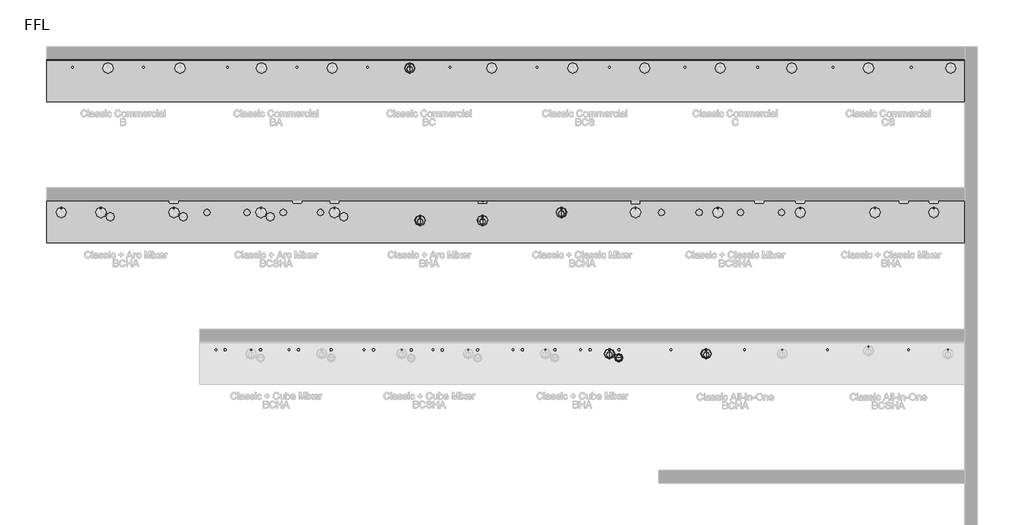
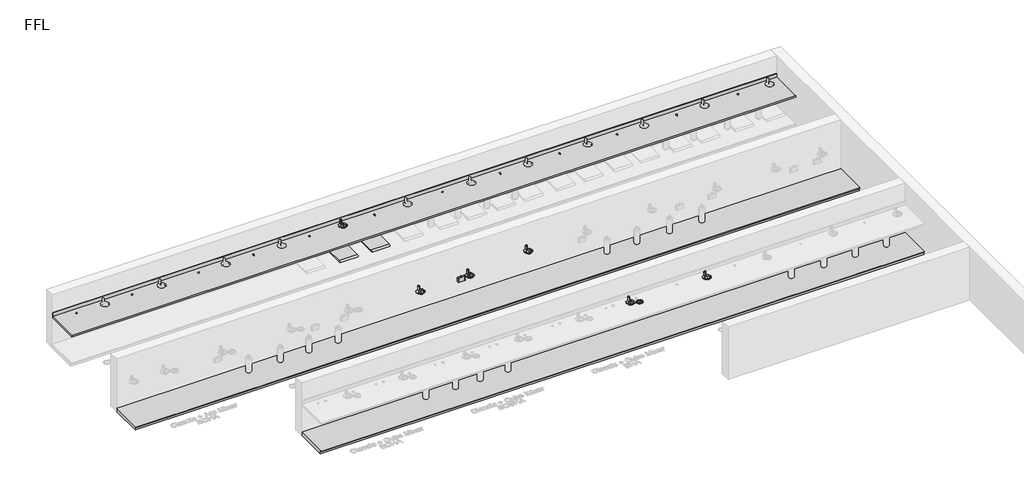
# One storey, part 3 of 13: 13 flow terminals, 3 furniture elements.
"""IFC4 building model written with IfcOpenShell, lengths in millimetres."""

from ifc_helpers import new_model, si_unit, frame, origin, place, context, project, spatial, polyline, circle_curve, transform, mapped, element, save
from ifc_brep_helpers import plane_surface, revolved_surface, advanced_brep
from components import flow_terminal_1fd3c137, bcs_and_bc_6de74493, bright_chrome_07e2d693, brushed_chrome_743c02cf, generic_plinth_900mm_a81356e5, generic_plinth_900mm_fa4a643e

model = new_model("IFC4")

# Units and contexts
model_context = context("Model", 3, world=origin())
ifc_project = project(units=[si_unit("LENGTHUNIT", "METRE", prefix="MILLI")], contexts=[model_context])

# Site, building, storey
site = spatial("IfcSite", under=ifc_project)
building = spatial("IfcBuilding", under=site)
storey = spatial("IfcBuildingStorey", under=building, Name="FFL", Elevation=0.0)

# Flow terminals
placement = place(None, origin())
flow_terminal_shape = flow_terminal_1fd3c137(model_context)
element("IfcFlowTerminal", 1, ObjectType="z_PlumFixt_Zenith_Booster : Booster", at=placement, inside=storey, context=model_context, shape_type="MappedRepresentation", body=[
    mapped(flow_terminal_shape, transform((4983.2647071, 1901.1893304, 498.0), x_axis=(1.0, 0.0, 0.0), y_axis=(0.0, 1.0, 0.0), z_axis=(0.0, 0.0, 1.0))),
])
element("IfcFlowTerminal", 2, ObjectType="z_PlumFixt_Zenith_Booster : Booster", at=placement, inside=storey, context=model_context, shape_type="MappedRepresentation", body=[
    mapped(flow_terminal_shape, transform((4373.2647071, 1901.1893304, 498.0), x_axis=(1.0, 0.0, 0.0), y_axis=(0.0, 1.0, 0.0), z_axis=(0.0, 0.0, 1.0))),
])
element("IfcFlowTerminal", 3, ObjectType="z_PlumFixt_Zenith_Booster : Booster", at=placement, inside=storey, context=model_context, shape_type="MappedRepresentation", body=[
    mapped(flow_terminal_shape, transform((7853.2647071, 1885.3893304, 498.0), x_axis=(1.0, 0.0, 0.0), y_axis=(0.0, 1.0, 0.0), z_axis=(0.0, 0.0, 1.0))),
])
element("IfcFlowTerminal", 4, ObjectType="z_PlumFixt_Zenith_Booster : Booster", at=placement, inside=storey, context=model_context, shape_type="MappedRepresentation", body=[
    mapped(flow_terminal_shape, transform((2289.2647071, 4901.1893304, 498.0), x_axis=(1.0, 0.0, 0.0), y_axis=(0.0, 1.0, 0.0), z_axis=(0.0, 0.0, 1.0))),
])
bcs_and_bc_shape = bcs_and_bc_6de74493(model_context)
element("IfcFlowTerminal", 5, ObjectType="z_PlumFixt_Zenith_Vent Tray : BCS and BC", at=placement, inside=storey, context=model_context, shape_type="MappedRepresentation", body=[
    mapped(bcs_and_bc_shape, transform((739.2647071, 7706.6893304, 100.0), x_axis=(1.0, 0.0, 0.0), y_axis=(0.0, 1.0, 0.0), z_axis=(0.0, 0.0, 1.0))),
])
element("IfcFlowTerminal", 6, ObjectType="z_PlumFixt_Zenith_Vent Tray : BCS and BC", at=placement, inside=storey, context=model_context, shape_type="MappedRepresentation", body=[
    mapped(bcs_and_bc_shape, transform((1599.2647071, 7706.6893304, 100.0), x_axis=(1.0, 0.0, 0.0), y_axis=(0.0, 1.0, 0.0), z_axis=(0.0, 0.0, 1.0))),
])
bright_chrome_shape = bright_chrome_07e2d693(model_context)
element("IfcFlowTerminal", 7, ObjectType="z_PlumFixt_Zenith_Font and Tap Riser : Bright Chrome", at=placement, inside=storey, context=model_context, shape_type="MappedRepresentation", body=[
    mapped(bright_chrome_shape, transform((740.2647071, 7645.4393304, 900.0), x_axis=(1.0, 0.0, 0.0), y_axis=(0.0, 1.0, 0.0), z_axis=(0.0, 0.0, 1.0))),
])
element("IfcFlowTerminal", 8, ObjectType="z_PlumFixt_Zenith_Font and Tap Riser : Bright Chrome", at=placement, inside=storey, context=model_context, shape_type="MappedRepresentation", body=[
    mapped(bright_chrome_shape, transform((3963.2647071, 4578.9393304, 900.0), x_axis=(1.0, 0.0, 0.0), y_axis=(0.0, 1.0, 0.0), z_axis=(0.0, 0.0, 1.0))),
])
element("IfcFlowTerminal", 9, ObjectType="z_PlumFixt_Zenith_Font and Tap Riser : Bright Chrome", at=placement, inside=storey, context=model_context, shape_type="MappedRepresentation", body=[
    mapped(bright_chrome_shape, transform((963.2647071, 4409.028067, 900.0), x_axis=(1.0, 0.0, 0.0), y_axis=(0.0, 1.0, 0.0), z_axis=(0.0, 0.0, 1.0))),
])
element("IfcFlowTerminal", 10, ObjectType="z_PlumFixt_Zenith_Font and Tap Riser : Bright Chrome", at=placement, inside=storey, context=model_context, shape_type="MappedRepresentation", body=[
    mapped(bright_chrome_shape, transform((7036.2647071, 1578.9393304, 900.0), x_axis=(1.0, 0.0, 0.0), y_axis=(0.0, 1.0, 0.0), z_axis=(0.0, 0.0, 1.0))),
])
element("IfcFlowTerminal", 11, ObjectType="z_PlumFixt_Zenith_Font and Tap Riser : Bright Chrome", at=placement, inside=storey, context=model_context, shape_type="MappedRepresentation", body=[
    mapped(bright_chrome_shape, transform((2289.2647071, 4409.028067, 900.0), x_axis=(1.0, 0.0, 0.0), y_axis=(0.0, 1.0, 0.0), z_axis=(0.0, 0.0, 1.0))),
])
element("IfcFlowTerminal", 12, ObjectType="z_PlumFixt_Zenith_Font and Tap Riser : Bright Chrome", at=placement, inside=storey, context=model_context, shape_type="MappedRepresentation", body=[
    mapped(bright_chrome_shape, transform((4983.2647071, 1578.9393304, 900.0), x_axis=(1.0, 0.0, 0.0), y_axis=(0.0, 1.0, 0.0), z_axis=(0.0, 0.0, 1.0))),
])
brushed_chrome_shape = brushed_chrome_743c02cf(model_context)
element("IfcFlowTerminal", 13, ObjectType="z_PlumFixt_Zenith_Font : Matte Black", at=placement, inside=storey, context=model_context, shape_type="MappedRepresentation", body=[
    mapped(brushed_chrome_shape, transform((5183.2647071, 1492.1893304, 900.0), x_axis=(1.0, 0.0, 0.0), y_axis=(0.0, 1.0, 0.0), z_axis=(0.0, 0.0, 1.0))),
])

# Furniture
element("IfcFurniture", 14, ObjectType="Counter Top : 900mm Depth", at=placement, inside=storey, context=model_context, shape_type="AdvancedBrep", body=[
    advanced_brep(
    [(-6969.7352929, 6948.2393304, 900.0), (12530.2647071, 6948.2393304, 900.0), (12530.2647071, 7829.1893304, 900.0), (-6969.7352929, 7829.1893304, 900.0), (4186.7647071, 7745.6893304, 900.0), (4221.7647071, 7745.6893304, 900.0), (4136.0647071, 7639.0712903, 900.0), (4272.4647071, 7639.0712903, 900.0), (3426.7647071, 7679.1893304, 900.0), (3461.7647071, 7679.1893304, 900.0), (4963.7647071, 7679.1893304, 900.0), (4998.7647071, 7679.1893304, 900.0), (5714.7647071, 7745.6893304, 900.0), (5749.7647071, 7745.6893304, 900.0), (5664.0647071, 7639.0712903, 900.0), (5800.4647071, 7639.0712903, 900.0), (-167.2352929, 7679.1893304, 900.0), (-132.2352929, 7679.1893304, 900.0), (723.7647071, 7745.6893304, 900.0), (758.7647071, 7745.6893304, 900.0), (673.0647071, 7639.0712903, 900.0), (809.4647071, 7639.0712903, 900.0), (1582.7647071, 7679.1893304, 900.0), (1617.7647071, 7679.1893304, 900.0), (2468.7647071, 7745.6893304, 900.0), (2503.7647071, 7745.6893304, 900.0), (2418.0647071, 7639.0712903, 900.0), (2554.4647071, 7639.0712903, 900.0), (-3143.2352929, 7679.1893304, 900.0), (-3108.2352929, 7679.1893304, 900.0), (-2422.2352929, 7745.6893304, 900.0), (-2387.2352929, 7745.6893304, 900.0), (-2472.9352929, 7639.0712903, 900.0), (-2336.5352929, 7639.0712903, 900.0), (-1673.2352929, 7679.1893304, 900.0), (-1638.2352929, 7679.1893304, 900.0), (-922.2352929, 7745.6893304, 900.0), (-887.2352929, 7745.6893304, 900.0), (-972.9352929, 7639.0712903, 900.0), (-836.5352929, 7639.0712903, 900.0), (-6433.2352929, 7679.1893304, 900.0), (-6398.2352929, 7679.1893304, 900.0), (-5682.2352929, 7745.6893304, 900.0), (-5647.2352929, 7745.6893304, 900.0), (-5732.9352929, 7639.0712903, 900.0), (-5596.5352929, 7639.0712903, 900.0), (-4933.2352929, 7679.1893304, 900.0), (-4898.2352929, 7679.1893304, 900.0), (-4152.2352929, 7745.6893304, 900.0), (-4117.2352929, 7745.6893304, 900.0), (-4202.9352929, 7639.0712903, 900.0), (-4066.5352929, 7639.0712903, 900.0), (9716.7647071, 7679.1893304, 900.0), (9751.7647071, 7679.1893304, 900.0), (10467.7647071, 7745.6893304, 900.0), (10502.7647071, 7745.6893304, 900.0), (10417.0647071, 7639.0712903, 900.0), (10553.4647071, 7639.0712903, 900.0), (11376.7647071, 7679.1893304, 900.0), (11411.7647071, 7679.1893304, 900.0), (12217.7647071, 7745.6893304, 900.0), (12252.7647071, 7745.6893304, 900.0), (12167.0647071, 7639.0712903, 900.0), (12303.4647071, 7639.0712903, 900.0), (6566.7647071, 7679.1893304, 900.0), (6601.7647071, 7679.1893304, 900.0), (7317.7647071, 7745.6893304, 900.0), (7352.7647071, 7745.6893304, 900.0), (7267.0647071, 7639.0712903, 900.0), (7403.4647071, 7639.0712903, 900.0), (8116.7647071, 7679.1893304, 900.0), (8151.7647071, 7679.1893304, 900.0), (8837.7647071, 7745.6893304, 900.0), (8872.7647071, 7745.6893304, 900.0), (8787.0647071, 7639.0712903, 900.0), (8923.4647071, 7639.0712903, 900.0), (12530.2647071, 7848.2393304, 860.0), (12530.2647071, 6948.2393304, 860.0), (-6969.7352929, 6948.2393304, 860.0), (-6969.7352929, 7848.2393304, 860.0), (4221.7647071, 7745.6893304, 860.0), (4186.7647071, 7745.6893304, 860.0), (4272.4647071, 7639.0712903, 860.0), (4136.0647071, 7639.0712903, 860.0), (3461.7647071, 7679.1893304, 860.0), (3426.7647071, 7679.1893304, 860.0), (4998.7647071, 7679.1893304, 860.0), (4963.7647071, 7679.1893304, 860.0), (5749.7647071, 7745.6893304, 860.0), (5714.7647071, 7745.6893304, 860.0), (5800.4647071, 7639.0712903, 860.0), (5664.0647071, 7639.0712903, 860.0), (-132.2352929, 7679.1893304, 860.0), (-167.2352929, 7679.1893304, 860.0), (758.7647071, 7745.6893304, 860.0), (723.7647071, 7745.6893304, 860.0), (809.4647071, 7639.0712903, 860.0), (673.0647071, 7639.0712903, 860.0), (1617.7647071, 7679.1893304, 860.0), (1582.7647071, 7679.1893304, 860.0), (2503.7647071, 7745.6893304, 860.0), (2468.7647071, 7745.6893304, 860.0), (2554.4647071, 7639.0712903, 860.0), (2418.0647071, 7639.0712903, 860.0), (-3108.2352929, 7679.1893304, 860.0), (-3143.2352929, 7679.1893304, 860.0), (-2387.2352929, 7745.6893304, 860.0), (-2422.2352929, 7745.6893304, 860.0), (-2336.5352929, 7639.0712903, 860.0), (-2472.9352929, 7639.0712903, 860.0), (-1638.2352929, 7679.1893304, 860.0), (-1673.2352929, 7679.1893304, 860.0), (-887.2352929, 7745.6893304, 860.0), (-922.2352929, 7745.6893304, 860.0), (-836.5352929, 7639.0712903, 860.0), (-972.9352929, 7639.0712903, 860.0), (-6398.2352929, 7679.1893304, 860.0), (-6433.2352929, 7679.1893304, 860.0), (-5647.2352929, 7745.6893304, 860.0), (-5682.2352929, 7745.6893304, 860.0), (-5596.5352929, 7639.0712903, 860.0), (-5732.9352929, 7639.0712903, 860.0), (-4898.2352929, 7679.1893304, 860.0), (-4933.2352929, 7679.1893304, 860.0), (-4117.2352929, 7745.6893304, 860.0), (-4152.2352929, 7745.6893304, 860.0), (-4066.5352929, 7639.0712903, 860.0), (-4202.9352929, 7639.0712903, 860.0), (9751.7647071, 7679.1893304, 860.0), (9716.7647071, 7679.1893304, 860.0), (10502.7647071, 7745.6893304, 860.0), (10467.7647071, 7745.6893304, 860.0), (10553.4647071, 7639.0712903, 860.0), (10417.0647071, 7639.0712903, 860.0), (11411.7647071, 7679.1893304, 860.0), (11376.7647071, 7679.1893304, 860.0), (12252.7647071, 7745.6893304, 860.0), (12217.7647071, 7745.6893304, 860.0), (12303.4647071, 7639.0712903, 860.0), (12167.0647071, 7639.0712903, 860.0), (6601.7647071, 7679.1893304, 860.0), (6566.7647071, 7679.1893304, 860.0), (7352.7647071, 7745.6893304, 860.0), (7317.7647071, 7745.6893304, 860.0), (7403.4647071, 7639.0712903, 860.0), (7267.0647071, 7639.0712903, 860.0), (8151.7647071, 7679.1893304, 860.0), (8116.7647071, 7679.1893304, 860.0), (8872.7647071, 7745.6893304, 860.0), (8837.7647071, 7745.6893304, 860.0), (8923.4647071, 7639.0712903, 860.0), (8787.0647071, 7639.0712903, 860.0), (-6969.7352929, 7848.2393304, 1001.6), (12530.2647071, 7848.2393304, 1001.6), (-6969.7352929, 7829.1893304, 1001.6), (12530.2647071, 7829.1893304, 1001.6)],
    [
        (0, 1),
        (1, 2),
        (2, 3),
        (3, 0),
        (4, 5, circle_curve(frame((4204.2647071, 7745.6893304, 900.0), z_axis=(0.0, 0.0, -1.0), x_axis=(-1.0, 0.0, 0.0)), 17.5)),
        (5, 4, circle_curve(frame((4204.2647071, 7745.6893304, 900.0), z_axis=(0.0, 0.0, -1.0), x_axis=(-1.0, 0.0, 0.0)), 17.5)),
        (6, 7, circle_curve(frame((4204.2647071, 7639.0712903, 900.0), z_axis=(0.0, 0.0, -1.0), x_axis=(-1.0, 0.0, 0.0)), 68.2)),
        (7, 6, circle_curve(frame((4204.2647071, 7639.0712903, 900.0), z_axis=(0.0, 0.0, -1.0), x_axis=(-1.0, 0.0, 0.0)), 68.2)),
        (8, 9, circle_curve(frame((3444.2647071, 7679.1893304, 900.0), z_axis=(0.0, 0.0, -1.0), x_axis=(-1.0, 0.0, 0.0)), 17.5)),
        (9, 8, circle_curve(frame((3444.2647071, 7679.1893304, 900.0), z_axis=(0.0, 0.0, -1.0), x_axis=(-1.0, 0.0, 0.0)), 17.5)),
        (10, 11, circle_curve(frame((4981.2647071, 7679.1893304, 900.0), z_axis=(0.0, 0.0, -1.0), x_axis=(-1.0, 0.0, 0.0)), 17.5)),
        (11, 10, circle_curve(frame((4981.2647071, 7679.1893304, 900.0), z_axis=(0.0, 0.0, -1.0), x_axis=(-1.0, 0.0, 0.0)), 17.5)),
        (12, 13, circle_curve(frame((5732.2647071, 7745.6893304, 900.0), z_axis=(0.0, 0.0, -1.0), x_axis=(-1.0, 0.0, 0.0)), 17.5)),
        (13, 12, circle_curve(frame((5732.2647071, 7745.6893304, 900.0), z_axis=(0.0, 0.0, -1.0), x_axis=(-1.0, 0.0, 0.0)), 17.5)),
        (14, 15, circle_curve(frame((5732.2647071, 7639.0712903, 900.0), z_axis=(0.0, 0.0, -1.0), x_axis=(-1.0, 0.0, 0.0)), 68.2)),
        (15, 14, circle_curve(frame((5732.2647071, 7639.0712903, 900.0), z_axis=(0.0, 0.0, -1.0), x_axis=(-1.0, 0.0, 0.0)), 68.2)),
        (16, 17, circle_curve(frame((-149.7352929, 7679.1893304, 900.0), z_axis=(0.0, 0.0, -1.0), x_axis=(-1.0, 0.0, 0.0)), 17.5)),
        (17, 16, circle_curve(frame((-149.7352929, 7679.1893304, 900.0), z_axis=(0.0, 0.0, -1.0), x_axis=(-1.0, 0.0, 0.0)), 17.5)),
        (18, 19, circle_curve(frame((741.2647071, 7745.6893304, 900.0), z_axis=(0.0, 0.0, -1.0), x_axis=(-1.0, 0.0, 0.0)), 17.5)),
        (19, 18, circle_curve(frame((741.2647071, 7745.6893304, 900.0), z_axis=(0.0, 0.0, -1.0), x_axis=(-1.0, 0.0, 0.0)), 17.5)),
        (20, 21, circle_curve(frame((741.2647071, 7639.0712903, 900.0), z_axis=(0.0, 0.0, -1.0), x_axis=(-1.0, 0.0, 0.0)), 68.2)),
        (21, 20, circle_curve(frame((741.2647071, 7639.0712903, 900.0), z_axis=(0.0, 0.0, -1.0), x_axis=(-1.0, 0.0, 0.0)), 68.2)),
        (22, 23, circle_curve(frame((1600.2647071, 7679.1893304, 900.0), z_axis=(0.0, 0.0, -1.0), x_axis=(-1.0, 0.0, 0.0)), 17.5)),
        (23, 22, circle_curve(frame((1600.2647071, 7679.1893304, 900.0), z_axis=(0.0, 0.0, -1.0), x_axis=(-1.0, 0.0, 0.0)), 17.5)),
        (24, 25, circle_curve(frame((2486.2647071, 7745.6893304, 900.0), z_axis=(0.0, 0.0, -1.0), x_axis=(-1.0, 0.0, 0.0)), 17.5)),
        (25, 24, circle_curve(frame((2486.2647071, 7745.6893304, 900.0), z_axis=(0.0, 0.0, -1.0), x_axis=(-1.0, 0.0, 0.0)), 17.5)),
        (26, 27, circle_curve(frame((2486.2647071, 7639.0712903, 900.0), z_axis=(0.0, 0.0, -1.0), x_axis=(-1.0, 0.0, 0.0)), 68.2)),
        (27, 26, circle_curve(frame((2486.2647071, 7639.0712903, 900.0), z_axis=(0.0, 0.0, -1.0), x_axis=(-1.0, 0.0, 0.0)), 68.2)),
        (28, 29, circle_curve(frame((-3125.7352929, 7679.1893304, 900.0), z_axis=(0.0, 0.0, -1.0), x_axis=(-1.0, 0.0, 0.0)), 17.5)),
        (29, 28, circle_curve(frame((-3125.7352929, 7679.1893304, 900.0), z_axis=(0.0, 0.0, -1.0), x_axis=(-1.0, 0.0, 0.0)), 17.5)),
        (30, 31, circle_curve(frame((-2404.7352929, 7745.6893304, 900.0), z_axis=(0.0, 0.0, -1.0), x_axis=(-1.0, 0.0, 0.0)), 17.5)),
        (31, 30, circle_curve(frame((-2404.7352929, 7745.6893304, 900.0), z_axis=(0.0, 0.0, -1.0), x_axis=(-1.0, 0.0, 0.0)), 17.5)),
        (32, 33, circle_curve(frame((-2404.7352929, 7639.0712903, 900.0), z_axis=(0.0, 0.0, -1.0), x_axis=(-1.0, 0.0, 0.0)), 68.2)),
        (33, 32, circle_curve(frame((-2404.7352929, 7639.0712903, 900.0), z_axis=(0.0, 0.0, -1.0), x_axis=(-1.0, 0.0, 0.0)), 68.2)),
        (34, 35, circle_curve(frame((-1655.7352929, 7679.1893304, 900.0), z_axis=(0.0, 0.0, -1.0), x_axis=(-1.0, 0.0, 0.0)), 17.5)),
        (35, 34, circle_curve(frame((-1655.7352929, 7679.1893304, 900.0), z_axis=(0.0, 0.0, -1.0), x_axis=(-1.0, 0.0, 0.0)), 17.5)),
        (36, 37, circle_curve(frame((-904.7352929, 7745.6893304, 900.0), z_axis=(0.0, 0.0, -1.0), x_axis=(-1.0, 0.0, 0.0)), 17.5)),
        (37, 36, circle_curve(frame((-904.7352929, 7745.6893304, 900.0), z_axis=(0.0, 0.0, -1.0), x_axis=(-1.0, 0.0, 0.0)), 17.5)),
        (38, 39, circle_curve(frame((-904.7352929, 7639.0712903, 900.0), z_axis=(0.0, 0.0, -1.0), x_axis=(-1.0, 0.0, 0.0)), 68.2)),
        (39, 38, circle_curve(frame((-904.7352929, 7639.0712903, 900.0), z_axis=(0.0, 0.0, -1.0), x_axis=(-1.0, 0.0, 0.0)), 68.2)),
        (40, 41, circle_curve(frame((-6415.7352929, 7679.1893304, 900.0), z_axis=(0.0, 0.0, -1.0), x_axis=(-1.0, 0.0, 0.0)), 17.5)),
        (41, 40, circle_curve(frame((-6415.7352929, 7679.1893304, 900.0), z_axis=(0.0, 0.0, -1.0), x_axis=(-1.0, 0.0, 0.0)), 17.5)),
        (42, 43, circle_curve(frame((-5664.7352929, 7745.6893304, 900.0), z_axis=(0.0, 0.0, -1.0), x_axis=(-1.0, 0.0, 0.0)), 17.5)),
        (43, 42, circle_curve(frame((-5664.7352929, 7745.6893304, 900.0), z_axis=(0.0, 0.0, -1.0), x_axis=(-1.0, 0.0, 0.0)), 17.5)),
        (44, 45, circle_curve(frame((-5664.7352929, 7639.0712903, 900.0), z_axis=(0.0, 0.0, -1.0), x_axis=(-1.0, 0.0, 0.0)), 68.2)),
        (45, 44, circle_curve(frame((-5664.7352929, 7639.0712903, 900.0), z_axis=(0.0, 0.0, -1.0), x_axis=(-1.0, 0.0, 0.0)), 68.2)),
        (46, 47, circle_curve(frame((-4915.7352929, 7679.1893304, 900.0), z_axis=(0.0, 0.0, -1.0), x_axis=(-1.0, 0.0, 0.0)), 17.5)),
        (47, 46, circle_curve(frame((-4915.7352929, 7679.1893304, 900.0), z_axis=(0.0, 0.0, -1.0), x_axis=(-1.0, 0.0, 0.0)), 17.5)),
        (48, 49, circle_curve(frame((-4134.7352929, 7745.6893304, 900.0), z_axis=(0.0, 0.0, -1.0), x_axis=(-1.0, 0.0, 0.0)), 17.5)),
        (49, 48, circle_curve(frame((-4134.7352929, 7745.6893304, 900.0), z_axis=(0.0, 0.0, -1.0), x_axis=(-1.0, 0.0, 0.0)), 17.5)),
        (50, 51, circle_curve(frame((-4134.7352929, 7639.0712903, 900.0), z_axis=(0.0, 0.0, -1.0), x_axis=(-1.0, 0.0, 0.0)), 68.2)),
        (51, 50, circle_curve(frame((-4134.7352929, 7639.0712903, 900.0), z_axis=(0.0, 0.0, -1.0), x_axis=(-1.0, 0.0, 0.0)), 68.2)),
        (52, 53, circle_curve(frame((9734.2647071, 7679.1893304, 900.0), z_axis=(0.0, 0.0, -1.0), x_axis=(-1.0, 0.0, 0.0)), 17.5)),
        (53, 52, circle_curve(frame((9734.2647071, 7679.1893304, 900.0), z_axis=(0.0, 0.0, -1.0), x_axis=(-1.0, 0.0, 0.0)), 17.5)),
        (54, 55, circle_curve(frame((10485.2647071, 7745.6893304, 900.0), z_axis=(0.0, 0.0, -1.0), x_axis=(-1.0, 0.0, 0.0)), 17.5)),
        (55, 54, circle_curve(frame((10485.2647071, 7745.6893304, 900.0), z_axis=(0.0, 0.0, -1.0), x_axis=(-1.0, 0.0, 0.0)), 17.5)),
        (56, 57, circle_curve(frame((10485.2647071, 7639.0712903, 900.0), z_axis=(0.0, 0.0, -1.0), x_axis=(-1.0, 0.0, 0.0)), 68.2)),
        (57, 56, circle_curve(frame((10485.2647071, 7639.0712903, 900.0), z_axis=(0.0, 0.0, -1.0), x_axis=(-1.0, 0.0, 0.0)), 68.2)),
        (58, 59, circle_curve(frame((11394.2647071, 7679.1893304, 900.0), z_axis=(0.0, 0.0, -1.0), x_axis=(-1.0, 0.0, 0.0)), 17.5)),
        (59, 58, circle_curve(frame((11394.2647071, 7679.1893304, 900.0), z_axis=(0.0, 0.0, -1.0), x_axis=(-1.0, 0.0, 0.0)), 17.5)),
        (60, 61, circle_curve(frame((12235.2647071, 7745.6893304, 900.0), z_axis=(0.0, 0.0, -1.0), x_axis=(-1.0, 0.0, 0.0)), 17.5)),
        (61, 60, circle_curve(frame((12235.2647071, 7745.6893304, 900.0), z_axis=(0.0, 0.0, -1.0), x_axis=(-1.0, 0.0, 0.0)), 17.5)),
        (62, 63, circle_curve(frame((12235.2647071, 7639.0712903, 900.0), z_axis=(0.0, 0.0, -1.0), x_axis=(-1.0, 0.0, 0.0)), 68.2)),
        (63, 62, circle_curve(frame((12235.2647071, 7639.0712903, 900.0), z_axis=(0.0, 0.0, -1.0), x_axis=(-1.0, 0.0, 0.0)), 68.2)),
        (64, 65, circle_curve(frame((6584.2647071, 7679.1893304, 900.0), z_axis=(0.0, 0.0, -1.0), x_axis=(-1.0, 0.0, 0.0)), 17.5)),
        (65, 64, circle_curve(frame((6584.2647071, 7679.1893304, 900.0), z_axis=(0.0, 0.0, -1.0), x_axis=(-1.0, 0.0, 0.0)), 17.5)),
        (66, 67, circle_curve(frame((7335.2647071, 7745.6893304, 900.0), z_axis=(0.0, 0.0, -1.0), x_axis=(-1.0, 0.0, 0.0)), 17.5)),
        (67, 66, circle_curve(frame((7335.2647071, 7745.6893304, 900.0), z_axis=(0.0, 0.0, -1.0), x_axis=(-1.0, 0.0, 0.0)), 17.5)),
        (68, 69, circle_curve(frame((7335.2647071, 7639.0712903, 900.0), z_axis=(0.0, 0.0, -1.0), x_axis=(-1.0, 0.0, 0.0)), 68.2)),
        (69, 68, circle_curve(frame((7335.2647071, 7639.0712903, 900.0), z_axis=(0.0, 0.0, -1.0), x_axis=(-1.0, 0.0, 0.0)), 68.2)),
        (70, 71, circle_curve(frame((8134.2647071, 7679.1893304, 900.0), z_axis=(0.0, 0.0, -1.0), x_axis=(-1.0, 0.0, 0.0)), 17.5)),
        (71, 70, circle_curve(frame((8134.2647071, 7679.1893304, 900.0), z_axis=(0.0, 0.0, -1.0), x_axis=(-1.0, 0.0, 0.0)), 17.5)),
        (72, 73, circle_curve(frame((8855.2647071, 7745.6893304, 900.0), z_axis=(0.0, 0.0, -1.0), x_axis=(-1.0, 0.0, 0.0)), 17.5)),
        (73, 72, circle_curve(frame((8855.2647071, 7745.6893304, 900.0), z_axis=(0.0, 0.0, -1.0), x_axis=(-1.0, 0.0, 0.0)), 17.5)),
        (74, 75, circle_curve(frame((8855.2647071, 7639.0712903, 900.0), z_axis=(0.0, 0.0, -1.0), x_axis=(-1.0, 0.0, 0.0)), 68.2)),
        (75, 74, circle_curve(frame((8855.2647071, 7639.0712903, 900.0), z_axis=(0.0, 0.0, -1.0), x_axis=(-1.0, 0.0, 0.0)), 68.2)),
        (76, 77),
        (77, 78),
        (78, 79),
        (79, 76),
        (80, 81, circle_curve(frame((4204.2647071, 7745.6893304, 860.0), z_axis=(0.0, 0.0, 1.0), x_axis=(-1.0, 0.0, 0.0)), 17.5)),
        (81, 80, circle_curve(frame((4204.2647071, 7745.6893304, 860.0), z_axis=(0.0, 0.0, 1.0), x_axis=(-1.0, 0.0, 0.0)), 17.5)),
        (82, 83, circle_curve(frame((4204.2647071, 7639.0712903, 860.0), z_axis=(0.0, 0.0, 1.0), x_axis=(-1.0, 0.0, 0.0)), 68.2)),
        (83, 82, circle_curve(frame((4204.2647071, 7639.0712903, 860.0), z_axis=(0.0, 0.0, 1.0), x_axis=(-1.0, 0.0, 0.0)), 68.2)),
        (84, 85, circle_curve(frame((3444.2647071, 7679.1893304, 860.0), z_axis=(0.0, 0.0, 1.0), x_axis=(-1.0, 0.0, 0.0)), 17.5)),
        (85, 84, circle_curve(frame((3444.2647071, 7679.1893304, 860.0), z_axis=(0.0, 0.0, 1.0), x_axis=(-1.0, 0.0, 0.0)), 17.5)),
        (86, 87, circle_curve(frame((4981.2647071, 7679.1893304, 860.0), z_axis=(0.0, 0.0, 1.0), x_axis=(-1.0, 0.0, 0.0)), 17.5)),
        (87, 86, circle_curve(frame((4981.2647071, 7679.1893304, 860.0), z_axis=(0.0, 0.0, 1.0), x_axis=(-1.0, 0.0, 0.0)), 17.5)),
        (88, 89, circle_curve(frame((5732.2647071, 7745.6893304, 860.0), z_axis=(0.0, 0.0, 1.0), x_axis=(-1.0, 0.0, 0.0)), 17.5)),
        (89, 88, circle_curve(frame((5732.2647071, 7745.6893304, 860.0), z_axis=(0.0, 0.0, 1.0), x_axis=(-1.0, 0.0, 0.0)), 17.5)),
        (90, 91, circle_curve(frame((5732.2647071, 7639.0712903, 860.0), z_axis=(0.0, 0.0, 1.0), x_axis=(-1.0, 0.0, 0.0)), 68.2)),
        (91, 90, circle_curve(frame((5732.2647071, 7639.0712903, 860.0), z_axis=(0.0, 0.0, 1.0), x_axis=(-1.0, 0.0, 0.0)), 68.2)),
        (92, 93, circle_curve(frame((-149.7352929, 7679.1893304, 860.0), z_axis=(0.0, 0.0, 1.0), x_axis=(-1.0, 0.0, 0.0)), 17.5)),
        (93, 92, circle_curve(frame((-149.7352929, 7679.1893304, 860.0), z_axis=(0.0, 0.0, 1.0), x_axis=(-1.0, 0.0, 0.0)), 17.5)),
        (94, 95, circle_curve(frame((741.2647071, 7745.6893304, 860.0), z_axis=(0.0, 0.0, 1.0), x_axis=(-1.0, 0.0, 0.0)), 17.5)),
        (95, 94, circle_curve(frame((741.2647071, 7745.6893304, 860.0), z_axis=(0.0, 0.0, 1.0), x_axis=(-1.0, 0.0, 0.0)), 17.5)),
        (96, 97, circle_curve(frame((741.2647071, 7639.0712903, 860.0), z_axis=(0.0, 0.0, 1.0), x_axis=(-1.0, 0.0, 0.0)), 68.2)),
        (97, 96, circle_curve(frame((741.2647071, 7639.0712903, 860.0), z_axis=(0.0, 0.0, 1.0), x_axis=(-1.0, 0.0, 0.0)), 68.2)),
        (98, 99, circle_curve(frame((1600.2647071, 7679.1893304, 860.0), z_axis=(0.0, 0.0, 1.0), x_axis=(-1.0, 0.0, 0.0)), 17.5)),
        (99, 98, circle_curve(frame((1600.2647071, 7679.1893304, 860.0), z_axis=(0.0, 0.0, 1.0), x_axis=(-1.0, 0.0, 0.0)), 17.5)),
        (100, 101, circle_curve(frame((2486.2647071, 7745.6893304, 860.0), z_axis=(0.0, 0.0, 1.0), x_axis=(-1.0, 0.0, 0.0)), 17.5)),
        (101, 100, circle_curve(frame((2486.2647071, 7745.6893304, 860.0), z_axis=(0.0, 0.0, 1.0), x_axis=(-1.0, 0.0, 0.0)), 17.5)),
        (102, 103, circle_curve(frame((2486.2647071, 7639.0712903, 860.0), z_axis=(0.0, 0.0, 1.0), x_axis=(-1.0, 0.0, 0.0)), 68.2)),
        (103, 102, circle_curve(frame((2486.2647071, 7639.0712903, 860.0), z_axis=(0.0, 0.0, 1.0), x_axis=(-1.0, 0.0, 0.0)), 68.2)),
        (104, 105, circle_curve(frame((-3125.7352929, 7679.1893304, 860.0), z_axis=(0.0, 0.0, 1.0), x_axis=(-1.0, 0.0, 0.0)), 17.5)),
        (105, 104, circle_curve(frame((-3125.7352929, 7679.1893304, 860.0), z_axis=(0.0, 0.0, 1.0), x_axis=(-1.0, 0.0, 0.0)), 17.5)),
        (106, 107, circle_curve(frame((-2404.7352929, 7745.6893304, 860.0), z_axis=(0.0, 0.0, 1.0), x_axis=(-1.0, 0.0, 0.0)), 17.5)),
        (107, 106, circle_curve(frame((-2404.7352929, 7745.6893304, 860.0), z_axis=(0.0, 0.0, 1.0), x_axis=(-1.0, 0.0, 0.0)), 17.5)),
        (108, 109, circle_curve(frame((-2404.7352929, 7639.0712903, 860.0), z_axis=(0.0, 0.0, 1.0), x_axis=(-1.0, 0.0, 0.0)), 68.2)),
        (109, 108, circle_curve(frame((-2404.7352929, 7639.0712903, 860.0), z_axis=(0.0, 0.0, 1.0), x_axis=(-1.0, 0.0, 0.0)), 68.2)),
        (110, 111, circle_curve(frame((-1655.7352929, 7679.1893304, 860.0), z_axis=(0.0, 0.0, 1.0), x_axis=(-1.0, 0.0, 0.0)), 17.5)),
        (111, 110, circle_curve(frame((-1655.7352929, 7679.1893304, 860.0), z_axis=(0.0, 0.0, 1.0), x_axis=(-1.0, 0.0, 0.0)), 17.5)),
        (112, 113, circle_curve(frame((-904.7352929, 7745.6893304, 860.0), z_axis=(0.0, 0.0, 1.0), x_axis=(-1.0, 0.0, 0.0)), 17.5)),
        (113, 112, circle_curve(frame((-904.7352929, 7745.6893304, 860.0), z_axis=(0.0, 0.0, 1.0), x_axis=(-1.0, 0.0, 0.0)), 17.5)),
        (114, 115, circle_curve(frame((-904.7352929, 7639.0712903, 860.0), z_axis=(0.0, 0.0, 1.0), x_axis=(-1.0, 0.0, 0.0)), 68.2)),
        (115, 114, circle_curve(frame((-904.7352929, 7639.0712903, 860.0), z_axis=(0.0, 0.0, 1.0), x_axis=(-1.0, 0.0, 0.0)), 68.2)),
        (116, 117, circle_curve(frame((-6415.7352929, 7679.1893304, 860.0), z_axis=(0.0, 0.0, 1.0), x_axis=(-1.0, 0.0, 0.0)), 17.5)),
        (117, 116, circle_curve(frame((-6415.7352929, 7679.1893304, 860.0), z_axis=(0.0, 0.0, 1.0), x_axis=(-1.0, 0.0, 0.0)), 17.5)),
        (118, 119, circle_curve(frame((-5664.7352929, 7745.6893304, 860.0), z_axis=(0.0, 0.0, 1.0), x_axis=(-1.0, 0.0, 0.0)), 17.5)),
        (119, 118, circle_curve(frame((-5664.7352929, 7745.6893304, 860.0), z_axis=(0.0, 0.0, 1.0), x_axis=(-1.0, 0.0, 0.0)), 17.5)),
        (120, 121, circle_curve(frame((-5664.7352929, 7639.0712903, 860.0), z_axis=(0.0, 0.0, 1.0), x_axis=(-1.0, 0.0, 0.0)), 68.2)),
        (121, 120, circle_curve(frame((-5664.7352929, 7639.0712903, 860.0), z_axis=(0.0, 0.0, 1.0), x_axis=(-1.0, 0.0, 0.0)), 68.2)),
        (122, 123, circle_curve(frame((-4915.7352929, 7679.1893304, 860.0), z_axis=(0.0, 0.0, 1.0), x_axis=(-1.0, 0.0, 0.0)), 17.5)),
        (123, 122, circle_curve(frame((-4915.7352929, 7679.1893304, 860.0), z_axis=(0.0, 0.0, 1.0), x_axis=(-1.0, 0.0, 0.0)), 17.5)),
        (124, 125, circle_curve(frame((-4134.7352929, 7745.6893304, 860.0), z_axis=(0.0, 0.0, 1.0), x_axis=(-1.0, 0.0, 0.0)), 17.5)),
        (125, 124, circle_curve(frame((-4134.7352929, 7745.6893304, 860.0), z_axis=(0.0, 0.0, 1.0), x_axis=(-1.0, 0.0, 0.0)), 17.5)),
        (126, 127, circle_curve(frame((-4134.7352929, 7639.0712903, 860.0), z_axis=(0.0, 0.0, 1.0), x_axis=(-1.0, 0.0, 0.0)), 68.2)),
        (127, 126, circle_curve(frame((-4134.7352929, 7639.0712903, 860.0), z_axis=(0.0, 0.0, 1.0), x_axis=(-1.0, 0.0, 0.0)), 68.2)),
        (128, 129, circle_curve(frame((9734.2647071, 7679.1893304, 860.0), z_axis=(0.0, 0.0, 1.0), x_axis=(-1.0, 0.0, 0.0)), 17.5)),
        (129, 128, circle_curve(frame((9734.2647071, 7679.1893304, 860.0), z_axis=(0.0, 0.0, 1.0), x_axis=(-1.0, 0.0, 0.0)), 17.5)),
        (130, 131, circle_curve(frame((10485.2647071, 7745.6893304, 860.0), z_axis=(0.0, 0.0, 1.0), x_axis=(-1.0, 0.0, 0.0)), 17.5)),
        (131, 130, circle_curve(frame((10485.2647071, 7745.6893304, 860.0), z_axis=(0.0, 0.0, 1.0), x_axis=(-1.0, 0.0, 0.0)), 17.5)),
        (132, 133, circle_curve(frame((10485.2647071, 7639.0712903, 860.0), z_axis=(0.0, 0.0, 1.0), x_axis=(-1.0, 0.0, 0.0)), 68.2)),
        (133, 132, circle_curve(frame((10485.2647071, 7639.0712903, 860.0), z_axis=(0.0, 0.0, 1.0), x_axis=(-1.0, 0.0, 0.0)), 68.2)),
        (134, 135, circle_curve(frame((11394.2647071, 7679.1893304, 860.0), z_axis=(0.0, 0.0, 1.0), x_axis=(-1.0, 0.0, 0.0)), 17.5)),
        (135, 134, circle_curve(frame((11394.2647071, 7679.1893304, 860.0), z_axis=(0.0, 0.0, 1.0), x_axis=(-1.0, 0.0, 0.0)), 17.5)),
        (136, 137, circle_curve(frame((12235.2647071, 7745.6893304, 860.0), z_axis=(0.0, 0.0, 1.0), x_axis=(-1.0, 0.0, 0.0)), 17.5)),
        (137, 136, circle_curve(frame((12235.2647071, 7745.6893304, 860.0), z_axis=(0.0, 0.0, 1.0), x_axis=(-1.0, 0.0, 0.0)), 17.5)),
        (138, 139, circle_curve(frame((12235.2647071, 7639.0712903, 860.0), z_axis=(0.0, 0.0, 1.0), x_axis=(-1.0, 0.0, 0.0)), 68.2)),
        (139, 138, circle_curve(frame((12235.2647071, 7639.0712903, 860.0), z_axis=(0.0, 0.0, 1.0), x_axis=(-1.0, 0.0, 0.0)), 68.2)),
        (140, 141, circle_curve(frame((6584.2647071, 7679.1893304, 860.0), z_axis=(0.0, 0.0, 1.0), x_axis=(-1.0, 0.0, 0.0)), 17.5)),
        (141, 140, circle_curve(frame((6584.2647071, 7679.1893304, 860.0), z_axis=(0.0, 0.0, 1.0), x_axis=(-1.0, 0.0, 0.0)), 17.5)),
        (142, 143, circle_curve(frame((7335.2647071, 7745.6893304, 860.0), z_axis=(0.0, 0.0, 1.0), x_axis=(-1.0, 0.0, 0.0)), 17.5)),
        (143, 142, circle_curve(frame((7335.2647071, 7745.6893304, 860.0), z_axis=(0.0, 0.0, 1.0), x_axis=(-1.0, 0.0, 0.0)), 17.5)),
        (144, 145, circle_curve(frame((7335.2647071, 7639.0712903, 860.0), z_axis=(0.0, 0.0, 1.0), x_axis=(-1.0, 0.0, 0.0)), 68.2)),
        (145, 144, circle_curve(frame((7335.2647071, 7639.0712903, 860.0), z_axis=(0.0, 0.0, 1.0), x_axis=(-1.0, 0.0, 0.0)), 68.2)),
        (146, 147, circle_curve(frame((8134.2647071, 7679.1893304, 860.0), z_axis=(0.0, 0.0, 1.0), x_axis=(-1.0, 0.0, 0.0)), 17.5)),
        (147, 146, circle_curve(frame((8134.2647071, 7679.1893304, 860.0), z_axis=(0.0, 0.0, 1.0), x_axis=(-1.0, 0.0, 0.0)), 17.5)),
        (148, 149, circle_curve(frame((8855.2647071, 7745.6893304, 860.0), z_axis=(0.0, 0.0, 1.0), x_axis=(-1.0, 0.0, 0.0)), 17.5)),
        (149, 148, circle_curve(frame((8855.2647071, 7745.6893304, 860.0), z_axis=(0.0, 0.0, 1.0), x_axis=(-1.0, 0.0, 0.0)), 17.5)),
        (150, 151, circle_curve(frame((8855.2647071, 7639.0712903, 860.0), z_axis=(0.0, 0.0, 1.0), x_axis=(-1.0, 0.0, 0.0)), 68.2)),
        (151, 150, circle_curve(frame((8855.2647071, 7639.0712903, 860.0), z_axis=(0.0, 0.0, 1.0), x_axis=(-1.0, 0.0, 0.0)), 68.2)),
        (79, 152),
        (152, 153),
        (153, 76),
        (3, 154),
        (154, 152),
        (78, 0),
        (77, 1),
        (153, 155),
        (155, 2),
        (154, 155),
        (80, 5),
        (4, 81),
        (82, 7),
        (6, 83),
        (84, 9),
        (8, 85),
        (86, 11),
        (10, 87),
        (88, 13),
        (12, 89),
        (90, 15),
        (14, 91),
        (92, 17),
        (16, 93),
        (94, 19),
        (18, 95),
        (96, 21),
        (20, 97),
        (98, 23),
        (22, 99),
        (100, 25),
        (24, 101),
        (102, 27),
        (26, 103),
        (104, 29),
        (28, 105),
        (106, 31),
        (30, 107),
        (108, 33),
        (32, 109),
        (110, 35),
        (34, 111),
        (112, 37),
        (36, 113),
        (114, 39),
        (38, 115),
        (116, 41),
        (40, 117),
        (118, 43),
        (42, 119),
        (120, 45),
        (44, 121),
        (122, 47),
        (46, 123),
        (124, 49),
        (48, 125),
        (126, 51),
        (50, 127),
        (128, 53),
        (52, 129),
        (130, 55),
        (54, 131),
        (132, 57),
        (56, 133),
        (134, 59),
        (58, 135),
        (136, 61),
        (60, 137),
        (138, 63),
        (62, 139),
        (140, 65),
        (64, 141),
        (142, 67),
        (66, 143),
        (144, 69),
        (68, 145),
        (146, 71),
        (70, 147),
        (148, 73),
        (72, 149),
        (150, 75),
        (74, 151),
    ],
    [
        plane_surface(frame((-6969.7352929, 7848.2393304, 900.0), z_axis=(0.0, 0.0, 1.0), x_axis=(-1.0, 0.0, 0.0))),
        plane_surface(frame((-6969.7352929, 7848.2393304, 860.0), z_axis=(0.0, 0.0, -1.0), x_axis=(1.0, 0.0, 0.0))),
        plane_surface(frame((12530.2647071, 7848.2393304, 900.0), z_axis=(0.0, 1.0, 0.0), x_axis=(0.0, 0.0, -1.0))),
        plane_surface(frame((-6969.7352929, 7848.2393304, 900.0), z_axis=(-1.0, 0.0, 0.0), x_axis=(0.0, 0.0, -1.0))),
        plane_surface(frame((-6969.7352929, 6948.2393304, 900.0), z_axis=(0.0, -1.0, 0.0), x_axis=(0.0, 0.0, -1.0))),
        plane_surface(frame((12530.2647071, 6948.2393304, 900.0), z_axis=(1.0, 0.0, 0.0), x_axis=(0.0, 0.0, -1.0))),
        plane_surface(frame((-6969.7352929, 7848.2393304, 1001.6), z_axis=(0.0, 0.0, 1.0), x_axis=(0.0, -1.0, 0.0))),
        plane_surface(frame((-6969.7352929, 7829.1893304, 1001.6), z_axis=(0.0, -1.0, 0.0), x_axis=(0.0, 0.0, -1.0))),
        revolved_surface(polyline([(4186.7647071, 7745.6893304, 900.0), (4186.7647071, 7745.6893304, 860.0)]), (4204.2647071, 7745.6893304, 795.0), (0.0, 0.0, 1.0)),
        revolved_surface(polyline([(4136.0647071, 7639.0712903, 900.0), (4136.0647071, 7639.0712903, 860.0)]), (4204.2647071, 7639.0712903, 795.0), (0.0, 0.0, 1.0)),
        revolved_surface(polyline([(3426.7647071, 7679.1893304, 900.0), (3426.7647071, 7679.1893304, 860.0)]), (3444.2647071, 7679.1893304, 795.0), (0.0, 0.0, 1.0)),
        revolved_surface(polyline([(4963.7647071, 7679.1893304, 900.0), (4963.7647071, 7679.1893304, 860.0)]), (4981.2647071, 7679.1893304, 795.0), (0.0, 0.0, 1.0)),
        revolved_surface(polyline([(5714.7647071, 7745.6893304, 900.0), (5714.7647071, 7745.6893304, 860.0)]), (5732.2647071, 7745.6893304, 795.0), (0.0, 0.0, 1.0)),
        revolved_surface(polyline([(5664.0647071, 7639.0712903, 900.0), (5664.0647071, 7639.0712903, 860.0)]), (5732.2647071, 7639.0712903, 795.0), (0.0, 0.0, 1.0)),
        revolved_surface(polyline([(-167.2352929, 7679.1893304, 900.0), (-167.2352929, 7679.1893304, 860.0)]), (-149.7352929, 7679.1893304, 795.0), (0.0, 0.0, 1.0)),
        revolved_surface(polyline([(723.7647071, 7745.6893304, 900.0), (723.7647071, 7745.6893304, 860.0)]), (741.2647071, 7745.6893304, 795.0), (0.0, 0.0, 1.0)),
        revolved_surface(polyline([(673.0647071, 7639.0712903, 900.0), (673.0647071, 7639.0712903, 860.0)]), (741.2647071, 7639.0712903, 795.0), (0.0, 0.0, 1.0)),
        revolved_surface(polyline([(1582.7647071, 7679.1893304, 900.0), (1582.7647071, 7679.1893304, 860.0)]), (1600.2647071, 7679.1893304, 795.0), (0.0, 0.0, 1.0)),
        revolved_surface(polyline([(2468.7647071, 7745.6893304, 900.0), (2468.7647071, 7745.6893304, 860.0)]), (2486.2647071, 7745.6893304, 795.0), (0.0, 0.0, 1.0)),
        revolved_surface(polyline([(2418.0647071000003, 7639.0712903, 900.0), (2418.0647071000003, 7639.0712903, 860.0)]), (2486.2647071, 7639.0712903, 795.0), (0.0, 0.0, 1.0)),
        revolved_surface(polyline([(-3143.2352929, 7679.1893304, 900.0), (-3143.2352929, 7679.1893304, 860.0)]), (-3125.7352929, 7679.1893304, 795.0), (0.0, 0.0, 1.0)),
        revolved_surface(polyline([(-2422.2352929, 7745.6893304, 900.0), (-2422.2352929, 7745.6893304, 860.0)]), (-2404.7352929, 7745.6893304, 795.0), (0.0, 0.0, 1.0)),
        revolved_surface(polyline([(-2472.9352928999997, 7639.0712903, 900.0), (-2472.9352928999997, 7639.0712903, 860.0)]), (-2404.7352929, 7639.0712903, 795.0), (0.0, 0.0, 1.0)),
        revolved_surface(polyline([(-1673.2352929, 7679.1893304, 900.0), (-1673.2352929, 7679.1893304, 860.0)]), (-1655.7352929, 7679.1893304, 795.0), (0.0, 0.0, 1.0)),
        revolved_surface(polyline([(-922.2352929, 7745.6893304, 900.0), (-922.2352929, 7745.6893304, 860.0)]), (-904.7352929, 7745.6893304, 795.0), (0.0, 0.0, 1.0)),
        revolved_surface(polyline([(-972.9352929, 7639.0712903, 900.0), (-972.9352929, 7639.0712903, 860.0)]), (-904.7352929, 7639.0712903, 795.0), (0.0, 0.0, 1.0)),
        revolved_surface(polyline([(-6433.2352929, 7679.1893304, 900.0), (-6433.2352929, 7679.1893304, 860.0)]), (-6415.7352929, 7679.1893304, 795.0), (0.0, 0.0, 1.0)),
        revolved_surface(polyline([(-5682.2352929, 7745.6893304, 900.0), (-5682.2352929, 7745.6893304, 860.0)]), (-5664.7352929, 7745.6893304, 795.0), (0.0, 0.0, 1.0)),
        revolved_surface(polyline([(-5732.9352929, 7639.0712903, 900.0), (-5732.9352929, 7639.0712903, 860.0)]), (-5664.7352929, 7639.0712903, 795.0), (0.0, 0.0, 1.0)),
        revolved_surface(polyline([(-4933.2352929, 7679.1893304, 900.0), (-4933.2352929, 7679.1893304, 860.0)]), (-4915.7352929, 7679.1893304, 795.0), (0.0, 0.0, 1.0)),
        revolved_surface(polyline([(-4152.2352929, 7745.6893304, 900.0), (-4152.2352929, 7745.6893304, 860.0)]), (-4134.7352929, 7745.6893304, 795.0), (0.0, 0.0, 1.0)),
        revolved_surface(polyline([(-4202.9352929, 7639.0712903, 900.0), (-4202.9352929, 7639.0712903, 860.0)]), (-4134.7352929, 7639.0712903, 795.0), (0.0, 0.0, 1.0)),
        revolved_surface(polyline([(9716.7647071, 7679.1893304, 900.0), (9716.7647071, 7679.1893304, 860.0)]), (9734.2647071, 7679.1893304, 795.0), (0.0, 0.0, 1.0)),
        revolved_surface(polyline([(10467.7647071, 7745.6893304, 900.0), (10467.7647071, 7745.6893304, 860.0)]), (10485.2647071, 7745.6893304, 795.0), (0.0, 0.0, 1.0)),
        revolved_surface(polyline([(10417.064707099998, 7639.0712903, 900.0), (10417.064707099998, 7639.0712903, 860.0)]), (10485.2647071, 7639.0712903, 795.0), (0.0, 0.0, 1.0)),
        revolved_surface(polyline([(11376.7647071, 7679.1893304, 900.0), (11376.7647071, 7679.1893304, 860.0)]), (11394.2647071, 7679.1893304, 795.0), (0.0, 0.0, 1.0)),
        revolved_surface(polyline([(12217.7647071, 7745.6893304, 900.0), (12217.7647071, 7745.6893304, 860.0)]), (12235.2647071, 7745.6893304, 795.0), (0.0, 0.0, 1.0)),
        revolved_surface(polyline([(12167.064707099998, 7639.0712903, 900.0), (12167.064707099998, 7639.0712903, 860.0)]), (12235.2647071, 7639.0712903, 795.0), (0.0, 0.0, 1.0)),
        revolved_surface(polyline([(6566.7647071, 7679.1893304, 900.0), (6566.7647071, 7679.1893304, 860.0)]), (6584.2647071, 7679.1893304, 795.0), (0.0, 0.0, 1.0)),
        revolved_surface(polyline([(7317.7647071, 7745.6893304, 900.0), (7317.7647071, 7745.6893304, 860.0)]), (7335.2647071, 7745.6893304, 795.0), (0.0, 0.0, 1.0)),
        revolved_surface(polyline([(7267.0647071, 7639.0712903, 900.0), (7267.0647071, 7639.0712903, 860.0)]), (7335.2647071, 7639.0712903, 795.0), (0.0, 0.0, 1.0)),
        revolved_surface(polyline([(8116.7647071, 7679.1893304, 900.0), (8116.7647071, 7679.1893304, 860.0)]), (8134.2647071, 7679.1893304, 795.0), (0.0, 0.0, 1.0)),
        revolved_surface(polyline([(8837.7647071, 7745.6893304, 900.0), (8837.7647071, 7745.6893304, 860.0)]), (8855.2647071, 7745.6893304, 795.0), (0.0, 0.0, 1.0)),
        revolved_surface(polyline([(8787.064707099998, 7639.0712903, 900.0), (8787.064707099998, 7639.0712903, 860.0)]), (8855.2647071, 7639.0712903, 795.0), (0.0, 0.0, 1.0)),
    ],
    [
        (0, [[1, 2, 3, 4], [5, 6], [7, 8], [9, 10], [11, 12], [13, 14], [15, 16], [17, 18], [19, 20], [21, 22], [23, 24], [25, 26], [27, 28], [29, 30], [31, 32], [33, 34], [35, 36], [37, 38], [39, 40], [41, 42], [43, 44], [45, 46], [47, 48], [49, 50], [51, 52], [53, 54], [55, 56], [57, 58], [59, 60], [61, 62], [63, 64], [65, 66], [67, 68], [69, 70], [71, 72], [73, 74], [75, 76]]),
        (1, [[77, 78, 79, 80], [81, 82], [83, 84], [85, 86], [87, 88], [89, 90], [91, 92], [93, 94], [95, 96], [97, 98], [99, 100], [101, 102], [103, 104], [105, 106], [107, 108], [109, 110], [111, 112], [113, 114], [115, 116], [117, 118], [119, 120], [121, 122], [123, 124], [125, 126], [127, 128], [129, 130], [131, 132], [133, 134], [135, 136], [137, 138], [139, 140], [141, 142], [143, 144], [145, 146], [147, 148], [149, 150], [151, 152]]),
        (2, [[-80, 153, 154, 155]]),
        (3, [[-4, 156, 157, -153, -79, 158]]),
        (4, [[-1, -158, -78, 159]]),
        (5, [[-2, -159, -77, -155, 160, 161]]),
        (6, [[-154, -157, 162, -160]]),
        (7, [[-3, -161, -162, -156]]),
        (8, [[163, -5, 164, -81]]),
        (8, [[-163, -82, -164, -6]]),
        (9, [[165, -7, 166, -83]]),
        (9, [[-165, -84, -166, -8]]),
        (10, [[167, -9, 168, -85]]),
        (10, [[-167, -86, -168, -10]]),
        (11, [[169, -11, 170, -87]]),
        (11, [[-169, -88, -170, -12]]),
        (12, [[171, -13, 172, -89]]),
        (12, [[-171, -90, -172, -14]]),
        (13, [[173, -15, 174, -91]]),
        (13, [[-173, -92, -174, -16]]),
        (14, [[175, -17, 176, -93]]),
        (14, [[-175, -94, -176, -18]]),
        (15, [[177, -19, 178, -95]]),
        (15, [[-177, -96, -178, -20]]),
        (16, [[179, -21, 180, -97]]),
        (16, [[-179, -98, -180, -22]]),
        (17, [[181, -23, 182, -99]]),
        (17, [[-181, -100, -182, -24]]),
        (18, [[183, -25, 184, -101]]),
        (18, [[-183, -102, -184, -26]]),
        (19, [[185, -27, 186, -103]]),
        (19, [[-185, -104, -186, -28]]),
        (20, [[187, -29, 188, -105]]),
        (20, [[-187, -106, -188, -30]]),
        (21, [[189, -31, 190, -107]]),
        (21, [[-189, -108, -190, -32]]),
        (22, [[191, -33, 192, -109]]),
        (22, [[-191, -110, -192, -34]]),
        (23, [[193, -35, 194, -111]]),
        (23, [[-193, -112, -194, -36]]),
        (24, [[195, -37, 196, -113]]),
        (24, [[-195, -114, -196, -38]]),
        (25, [[197, -39, 198, -115]]),
        (25, [[-197, -116, -198, -40]]),
        (26, [[199, -41, 200, -117]]),
        (26, [[-199, -118, -200, -42]]),
        (27, [[201, -43, 202, -119]]),
        (27, [[-201, -120, -202, -44]]),
        (28, [[203, -45, 204, -121]]),
        (28, [[-203, -122, -204, -46]]),
        (29, [[205, -47, 206, -123]]),
        (29, [[-205, -124, -206, -48]]),
        (30, [[207, -49, 208, -125]]),
        (30, [[-207, -126, -208, -50]]),
        (31, [[209, -51, 210, -127]]),
        (31, [[-209, -128, -210, -52]]),
        (32, [[211, -53, 212, -129]]),
        (32, [[-211, -130, -212, -54]]),
        (33, [[213, -55, 214, -131]]),
        (33, [[-213, -132, -214, -56]]),
        (34, [[215, -57, 216, -133]]),
        (34, [[-215, -134, -216, -58]]),
        (35, [[217, -59, 218, -135]]),
        (35, [[-217, -136, -218, -60]]),
        (36, [[219, -61, 220, -137]]),
        (36, [[-219, -138, -220, -62]]),
        (37, [[221, -63, 222, -139]]),
        (37, [[-221, -140, -222, -64]]),
        (38, [[223, -65, 224, -141]]),
        (38, [[-223, -142, -224, -66]]),
        (39, [[225, -67, 226, -143]]),
        (39, [[-225, -144, -226, -68]]),
        (40, [[227, -69, 228, -145]]),
        (40, [[-227, -146, -228, -70]]),
        (41, [[229, -71, 230, -147]]),
        (41, [[-229, -148, -230, -72]]),
        (42, [[231, -73, 232, -149]]),
        (42, [[-231, -150, -232, -74]]),
        (43, [[233, -75, 234, -151]]),
        (43, [[-233, -152, -234, -76]]),
    ],
),
])
generic_plinth_900mm_shape = generic_plinth_900mm_a81356e5(model_context)
element("IfcFurniture", 15, ObjectType="Generic Plinth : 900mm", at=placement, inside=storey, context=model_context, shape_type="MappedRepresentation", body=[
    mapped(generic_plinth_900mm_shape, transform((2761.5270022, 4848.2393304, 0.0), x_axis=(1.0, 0.0, 0.0), y_axis=(0.0, 1.0, 0.0), z_axis=(0.0, 0.0, 1.0))),
])
generic_plinth_900mm_2_shape = generic_plinth_900mm_fa4a643e(model_context)
element("IfcFurniture", 16, ObjectType="Generic Plinth : 900mm", at=placement, inside=storey, context=model_context, shape_type="MappedRepresentation", body=[
    mapped(generic_plinth_900mm_2_shape, transform((4386.7716469, 1848.2393304, 0.0), x_axis=(1.0, 0.0, 0.0), y_axis=(0.0, 1.0, 0.0), z_axis=(0.0, 0.0, 1.0))),
])

save(model, "model.ifc")
